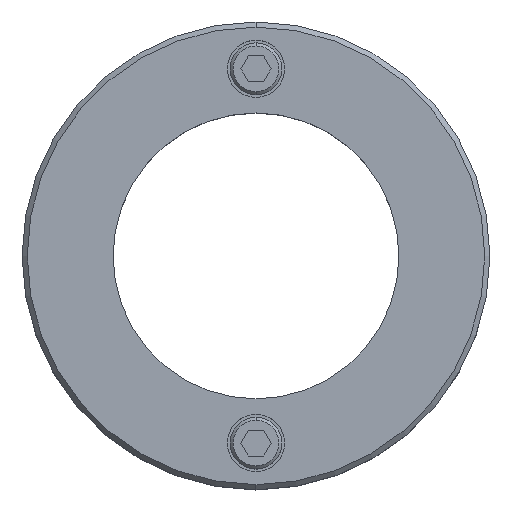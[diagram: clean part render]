
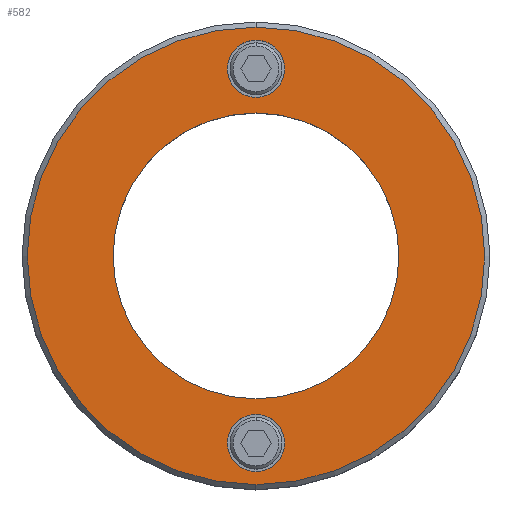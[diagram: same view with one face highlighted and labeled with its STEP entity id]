
A CAD part, top view. The second image highlights one B-rep face of the part: STEP entity #582.
In plain terms, the highlighted planar face has unit normal (0, 0, 1).
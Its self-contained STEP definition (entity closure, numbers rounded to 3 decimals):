
#105=VERTEX_POINT(' ',#106);
#106=CARTESIAN_POINT('',(0.,27.5,20.));
#107=VERTEX_POINT(' ',#108);
#108=CARTESIAN_POINT('',(0.,-27.5,20.));
#117=VERTEX_POINT(' ',#118);
#118=CARTESIAN_POINT('',(0.,41.5,20.));
#119=VERTEX_POINT(' ',#120);
#120=CARTESIAN_POINT('',(0.,30.5,20.));
#125=VERTEX_POINT(' ',#126);
#126=CARTESIAN_POINT('',(0.,-30.5,20.));
#127=VERTEX_POINT(' ',#128);
#128=CARTESIAN_POINT('',(0.,-41.5,20.));
#137=VERTEX_POINT(' ',#138);
#138=CARTESIAN_POINT('',(0.,-44.01,20.));
#139=VERTEX_POINT(' ',#140);
#140=CARTESIAN_POINT('',(0.,44.01,20.));
#199=CIRCLE('',#200,27.5);
#200=AXIS2_PLACEMENT_3D('',#201,#202,#203);
#201=CARTESIAN_POINT('',(0.,0.,20.));
#202=DIRECTION('',(0.,0.,-1.));
#203=DIRECTION('',(-1.,0.,0.));
#204=EDGE_CURVE(' ',#105,#107,#199,.T.);
#205=CIRCLE('',#206,27.5);
#206=AXIS2_PLACEMENT_3D('',#207,#208,#209);
#207=CARTESIAN_POINT('',(0.,0.,20.));
#208=DIRECTION('',(0.,0.,-1.));
#209=DIRECTION('',(1.,0.,0.));
#210=EDGE_CURVE(' ',#107,#105,#205,.T.);
#255=CIRCLE('',#256,5.5);
#256=AXIS2_PLACEMENT_3D('',#257,#258,#259);
#257=CARTESIAN_POINT('',(0.,36.,20.));
#258=DIRECTION('',(0.,0.,1.));
#259=DIRECTION('',(1.,0.,0.));
#260=EDGE_CURVE(' ',#117,#119,#255,.T.);
#277=CIRCLE('',#278,5.5);
#278=AXIS2_PLACEMENT_3D('',#279,#280,#281);
#279=CARTESIAN_POINT('',(0.,36.,20.));
#280=DIRECTION('',(0.,0.,1.));
#281=DIRECTION('',(-1.,0.,0.));
#282=EDGE_CURVE(' ',#119,#117,#277,.T.);
#289=CIRCLE('',#290,5.5);
#290=AXIS2_PLACEMENT_3D('',#291,#292,#293);
#291=CARTESIAN_POINT('',(0.,-36.,20.));
#292=DIRECTION('',(0.,0.,1.));
#293=DIRECTION('',(1.,0.,0.));
#294=EDGE_CURVE(' ',#125,#127,#289,.T.);
#311=CIRCLE('',#312,5.5);
#312=AXIS2_PLACEMENT_3D('',#313,#314,#315);
#313=CARTESIAN_POINT('',(0.,-36.,20.));
#314=DIRECTION('',(0.,0.,1.));
#315=DIRECTION('',(-1.,0.,0.));
#316=EDGE_CURVE(' ',#127,#125,#311,.T.);
#345=CIRCLE('',#346,44.01);
#346=AXIS2_PLACEMENT_3D('',#347,#348,#349);
#347=CARTESIAN_POINT('',(0.,0.,20.));
#348=DIRECTION('',(0.,0.,1.));
#349=DIRECTION('',(-1.,0.,0.));
#350=EDGE_CURVE(' ',#139,#137,#345,.F.);
#351=CIRCLE('',#352,44.01);
#352=AXIS2_PLACEMENT_3D('',#353,#354,#355);
#353=CARTESIAN_POINT('',(0.,0.,20.));
#354=DIRECTION('',(0.,0.,1.));
#355=DIRECTION('',(1.,0.,0.));
#356=EDGE_CURVE(' ',#137,#139,#351,.F.);
#561=ORIENTED_EDGE('',*,*,#350,.F.);
#562=ORIENTED_EDGE('',*,*,#356,.F.);
#563=EDGE_LOOP('',(#561,#562));
#564=FACE_OUTER_BOUND('',#563,.T.);
#565=ORIENTED_EDGE('',*,*,#316,.F.);
#566=ORIENTED_EDGE('',*,*,#294,.F.);
#567=EDGE_LOOP('',(#565,#566));
#568=FACE_BOUND('',#567,.T.);
#569=ORIENTED_EDGE('',*,*,#282,.F.);
#570=ORIENTED_EDGE('',*,*,#260,.F.);
#571=EDGE_LOOP('',(#569,#570));
#572=FACE_BOUND('',#571,.T.);
#573=ORIENTED_EDGE('',*,*,#204,.T.);
#574=ORIENTED_EDGE('',*,*,#210,.T.);
#575=EDGE_LOOP('',(#573,#574));
#576=FACE_BOUND('',#575,.T.);
#577=PLANE('',#578);
#578=AXIS2_PLACEMENT_3D('',#579,#580,#581);
#579=CARTESIAN_POINT('',(45.,0.,20.));
#580=DIRECTION('',(0.,0.,1.));
#581=DIRECTION('',(0.,1.,0.));
#582=ADVANCED_FACE('',(#564,#568,#572,#576),#577,.T.);
